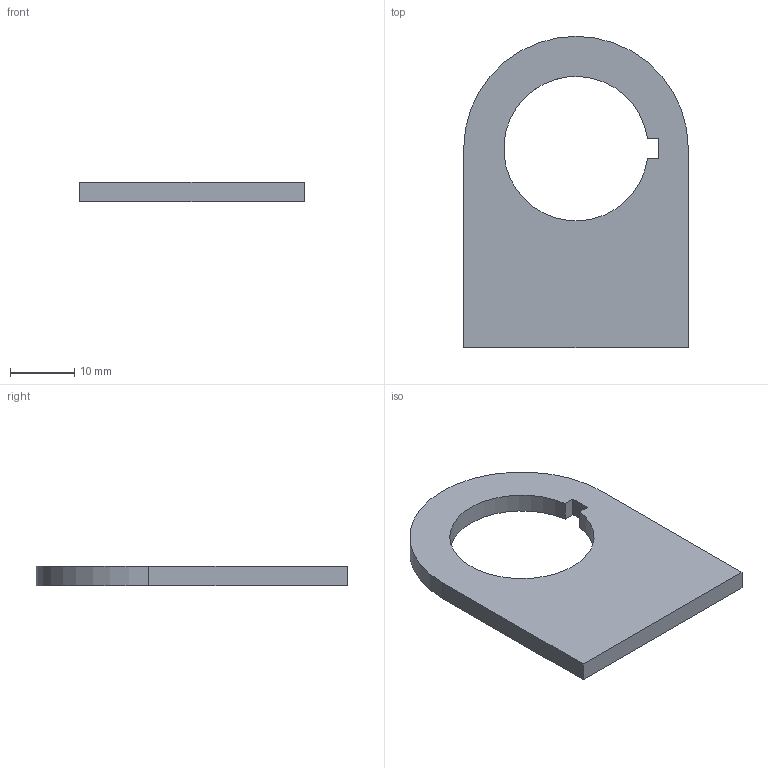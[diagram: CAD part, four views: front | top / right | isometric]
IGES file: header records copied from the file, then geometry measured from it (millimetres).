
Start section: START RECORD GO HERE.
Global section: file name: EN_0700_001 (Chappes arret d'urgence).igs; native system: IBM CATIA IGES - CATIA Version 5 Release 19 ; preprocessor: CATIA Version 5 Release 19 ; author: bobau; organization: DESKTOP-KEHHS92; date: 20181211.124453; units: millimetre
Bounding box: 35 x 48.5 x 3 mm (x, y, z)
Surface area: 3004.7 mm2 (no closed solid volume)
Topology: 0 solids, 0 shells, 10 faces, 48 edges, 48 vertices
Faces by surface type: plane 8, revolution 2
